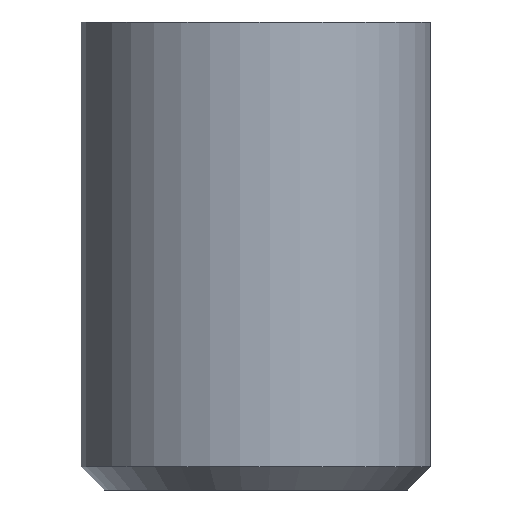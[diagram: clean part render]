
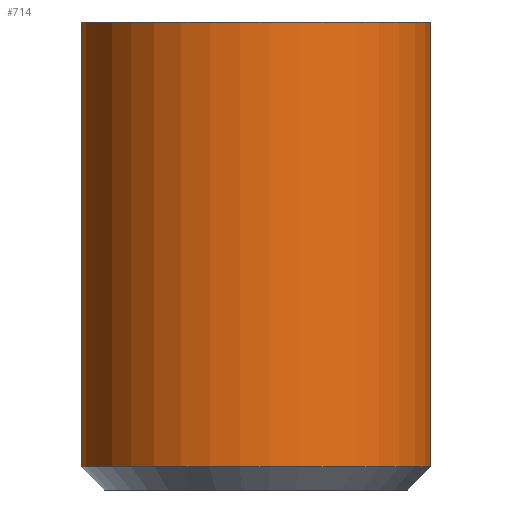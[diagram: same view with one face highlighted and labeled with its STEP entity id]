
A CAD part, front view. The second image highlights one B-rep face of the part: STEP entity #714.
In plain terms, the highlighted cylindrical face has radius 4.763 mm (diameter 9.525 mm), a partial arc.
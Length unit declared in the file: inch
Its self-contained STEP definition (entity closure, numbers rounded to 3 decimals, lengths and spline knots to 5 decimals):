
#2 = ORIENTED_EDGE ( 'NONE', *, *, #124, .T. ) ;
#23 = CARTESIAN_POINT ( 'NONE',  ( 0., 0., -0.5 ) ) ;
#51 = DIRECTION ( 'NONE',  ( 0.996, -0.093, 0. ) ) ;
#77 = LINE ( 'NONE', #609, #496 ) ;
#78 = DIRECTION ( 'NONE',  ( 0., 0., 1. ) ) ;
#82 = EDGE_CURVE ( 'NONE', #309, #376, #104, .T. ) ;
#91 = ORIENTED_EDGE ( 'NONE', *, *, #82, .T. ) ;
#95 = DIRECTION ( 'NONE',  ( 0., 0., 1. ) ) ;
#104 = CIRCLE ( 'NONE', #537, 0.1875 ) ;
#112 = EDGE_CURVE ( 'NONE', #733, #309, #77, .T. ) ;
#124 = EDGE_CURVE ( 'NONE', #168, #733, #339, .T. ) ;
#132 = DIRECTION ( 'NONE',  ( -0.996, 0.093, 0. ) ) ;
#135 = ORIENTED_EDGE ( 'NONE', *, *, #112, .T. ) ;
#168 = VERTEX_POINT ( 'NONE', #716 ) ;
#185 = VECTOR ( 'NONE', #95, 39.37008 ) ;
#211 = CYLINDRICAL_SURFACE ( 'NONE', #300, 0.1875 ) ;
#235 = CARTESIAN_POINT ( 'NONE',  ( 0.18668, -0.01751, 0. ) ) ;
#240 = EDGE_CURVE ( 'NONE', #168, #376, #348, .T. ) ;
#273 = FACE_OUTER_BOUND ( 'NONE', #355, .T. ) ;
#300 = AXIS2_PLACEMENT_3D ( 'NONE', #23, #78, #132 ) ;
#304 = CARTESIAN_POINT ( 'NONE',  ( -0.18668, 0.01751, 0. ) ) ;
#309 = VERTEX_POINT ( 'NONE', #235 ) ;
#338 = CARTESIAN_POINT ( 'NONE',  ( 0.18668, -0.01751, -0.475 ) ) ;
#339 = CIRCLE ( 'NONE', #722, 0.1875 ) ;
#348 = LINE ( 'NONE', #625, #185 ) ;
#355 = EDGE_LOOP ( 'NONE', ( #2, #135, #91, #582 ) ) ;
#369 = CARTESIAN_POINT ( 'NONE',  ( 0., 0., -0.475 ) ) ;
#376 = VERTEX_POINT ( 'NONE', #304 ) ;
#475 = CARTESIAN_POINT ( 'NONE',  ( 0., 0., 0. ) ) ;
#494 = DIRECTION ( 'NONE',  ( 0., 0., 1. ) ) ;
#496 = VECTOR ( 'NONE', #709, 39.37008 ) ;
#537 = AXIS2_PLACEMENT_3D ( 'NONE', #475, #639, #51 ) ;
#582 = ORIENTED_EDGE ( 'NONE', *, *, #240, .F. ) ;
#609 = CARTESIAN_POINT ( 'NONE',  ( 0.18668, -0.01751, -0.5 ) ) ;
#625 = CARTESIAN_POINT ( 'NONE',  ( -0.18668, 0.01751, -0.5 ) ) ;
#639 = DIRECTION ( 'NONE',  ( 0., 0., -1. ) ) ;
#644 = DIRECTION ( 'NONE',  ( 0.996, -0.093, 0. ) ) ;
#709 = DIRECTION ( 'NONE',  ( 0., 0., 1. ) ) ;
#714 = ADVANCED_FACE ( 'NONE', ( #273 ), #211, .T. ) ;
#716 = CARTESIAN_POINT ( 'NONE',  ( -0.18668, 0.01751, -0.475 ) ) ;
#722 = AXIS2_PLACEMENT_3D ( 'NONE', #369, #494, #644 ) ;
#733 = VERTEX_POINT ( 'NONE', #338 ) ;
